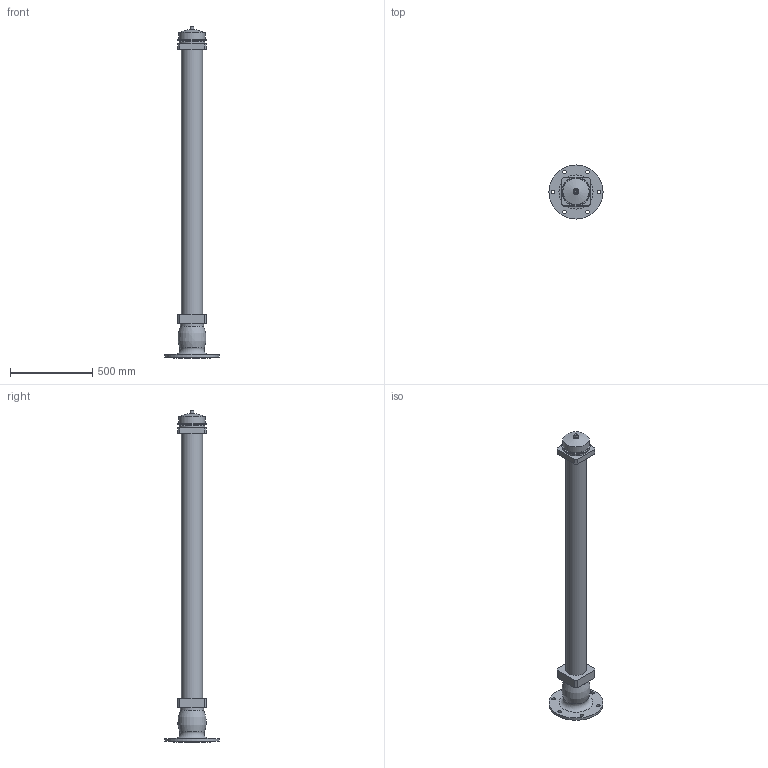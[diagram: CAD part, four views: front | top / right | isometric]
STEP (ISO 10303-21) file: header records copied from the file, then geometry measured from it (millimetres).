
FILE_DESCRIPTION(('STEP AP203'), '1');
FILE_NAME('Ãèäðàíò GPP 2000 ïîæàðíûé ïîäçåìíûé', '', ('UNSPECIFIED'), ('UNSPECIFIED'), 'ASCON STEP Converter 1.6', 'ASCON Math Kernel', '');
FILE_SCHEMA(('CONFIG_CONTROL_DESIGN'));
Length unit declared in the file: millimetre
Bounding box: 330 x 330 x 2022 mm (x, y, z)
Volume: 30808658.9 mm3; surface area: 1110847.9 mm2
Topology: 1 solids, 1 shells, 47 faces, 104 edges, 67 vertices
Faces by surface type: plane 26, cylinder 12, cone 7, torus 2
Full cylindrical faces by diameter (mm): 20 x1, 22 x6, 129 x1, 142 x1, 143 x1, 157.302 x1, 160 x1
Entity records: 1617 total; most frequent: DIRECTION 212, CARTESIAN_POINT 196, ORIENTED_EDGE 164, EDGE_LOOP 88, AXIS2_PLACEMENT_3D 82, EDGE_CURVE 82, VERTEX_POINT 66, COLOUR_RGB 48
